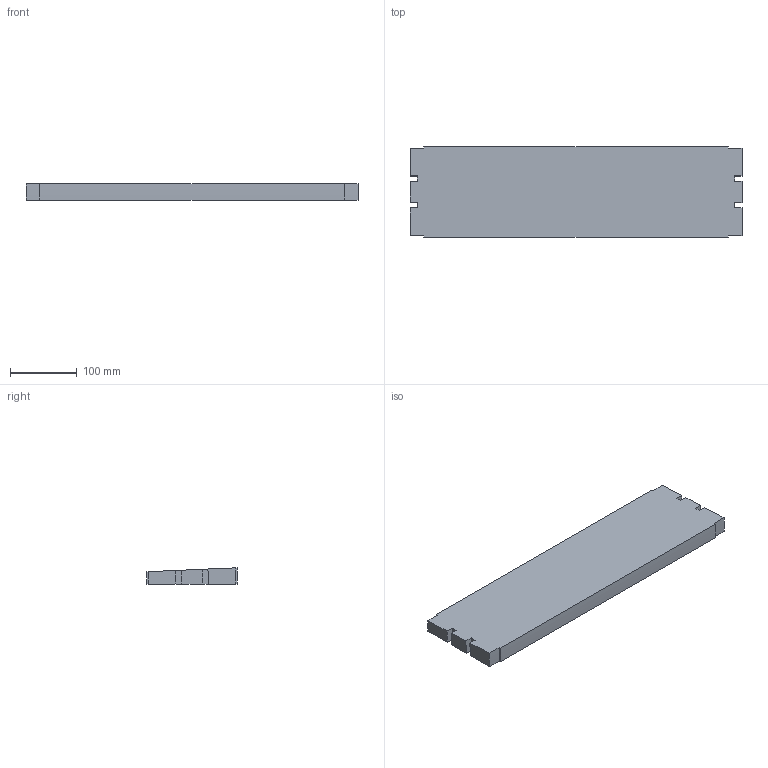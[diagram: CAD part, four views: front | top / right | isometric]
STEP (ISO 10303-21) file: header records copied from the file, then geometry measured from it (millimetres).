
FILE_DESCRIPTION (( 'STEP AP214' ), '1' );
FILE_NAME ('02.150V02.500.N FS-500-MTC-150 Bocht verticaal 2,5°.STEP', '2013-03-29T13:06:54', ( 'Gebruiker' ), ( '' ), 'SwSTEP 2.0', 'SolidWorks 2012', '' );
FILE_SCHEMA (( 'AUTOMOTIVE_DESIGN' ));
Length unit declared in the file: millimetre
Products named in the file (1): 02.150V02.500.N FS-500-MTC-150 Bocht verticaal 2,5°
Bounding box: 499 x 136.41 x 24.78 mm (x, y, z)
Volume: 1467821.9 mm3; surface area: 164187 mm2
Topology: 1 solids, 1 shells, 30 faces, 84 edges, 56 vertices
Faces by surface type: plane 16, cylinder 14
Entity records: 1010 total; most frequent: DIRECTION 174, CARTESIAN_POINT 171, ORIENTED_EDGE 168, EDGE_CURVE 84, AXIS2_PLACEMENT_3D 59, VERTEX_POINT 56, LINE 56, VECTOR 56
